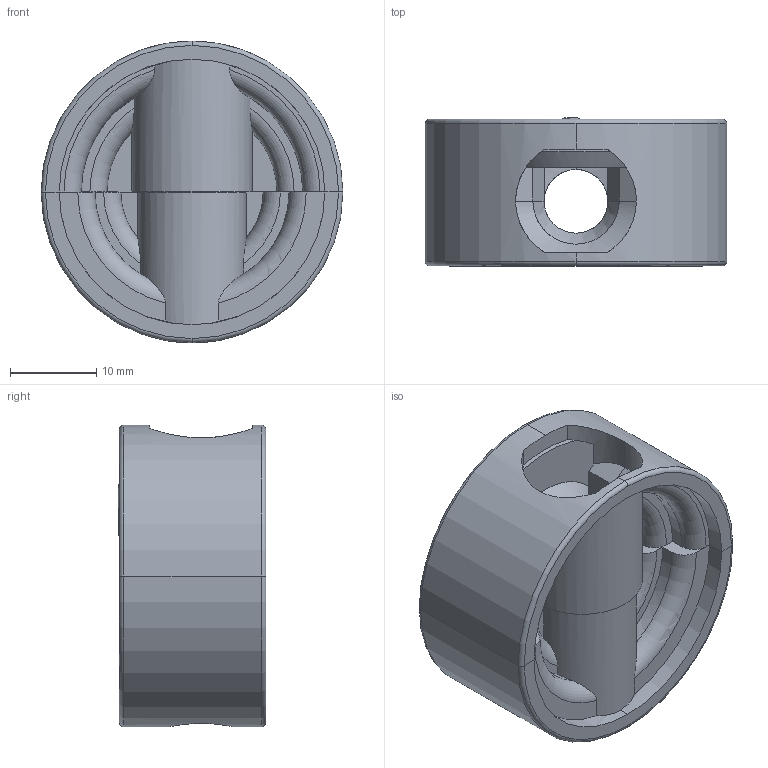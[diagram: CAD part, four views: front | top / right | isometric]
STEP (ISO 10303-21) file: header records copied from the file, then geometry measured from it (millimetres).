
FILE_DESCRIPTION (( 'STEP AP203' ), '1' );
FILE_NAME ('11.03.610_Housing.STEP', '2021-12-15T10:27:42', ( '' ), ( '' ), 'SwSTEP 2.0', 'SolidWorks 2020', '' );
FILE_SCHEMA (( 'CONFIG_CONTROL_DESIGN' ));
Length unit declared in the file: millimetre
Products named in the file (4): 11.03.610 - male part; 11.03.610 - tread; 11.03.610_Housing; 11.03.610 - female part
Assembly tree (3 placements, depth 2):
  11.03.610_Housing
    11.03.610 - male part
    11.03.610 - tread
    11.03.610 - female part
Bounding box: 35 x 17.15 x 35 mm (x, y, z)
Volume: 10311.1 mm3; surface area: 8042.8 mm2
Topology: 3 solids, 3 shells, 147 faces, 379 edges, 244 vertices
Faces by surface type: plane 59, cylinder 55, torus 18, cone 12, bspline 3
Entity records: 5888 total; most frequent: CARTESIAN_POINT 1862, DIRECTION 778, ORIENTED_EDGE 758, EDGE_CURVE 379, AXIS2_PLACEMENT_3D 299, VERTEX_POINT 244, VECTOR 180, LINE 180
